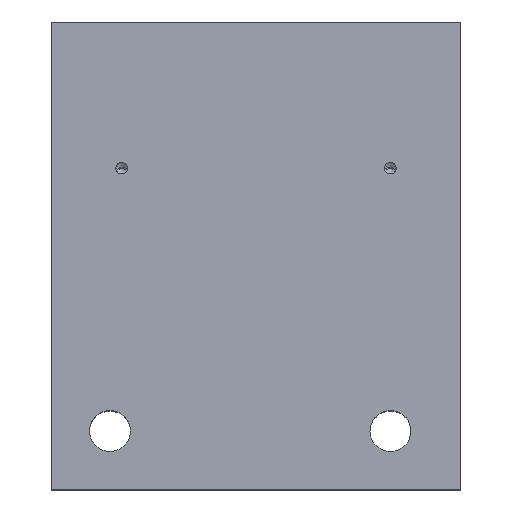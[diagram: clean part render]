
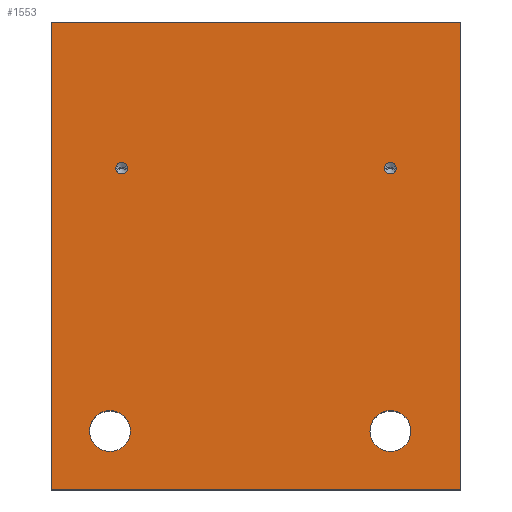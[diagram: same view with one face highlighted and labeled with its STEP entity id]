
A CAD part, top view. The second image highlights one B-rep face of the part: STEP entity #1553.
In plain terms, the highlighted planar face has unit normal (0, 0, 1).
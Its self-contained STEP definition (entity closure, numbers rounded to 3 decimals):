
#19=DIRECTION('',(0.,-1.,0.));
#20=VECTOR('',#19,80.);
#21=CARTESIAN_POINT('',(0.,0.,0.));
#22=LINE('',#21,#20);
#27=DIRECTION('',(-1.,0.,0.));
#28=VECTOR('',#27,70.);
#29=CARTESIAN_POINT('',(70.,0.,0.));
#30=LINE('',#29,#28);
#34=DIRECTION('',(0.,1.,0.));
#35=VECTOR('',#34,80.);
#36=CARTESIAN_POINT('',(70.,-80.,0.));
#37=LINE('',#36,#35);
#41=DIRECTION('',(1.,0.,0.));
#42=VECTOR('',#41,70.);
#43=CARTESIAN_POINT('',(0.,-80.,0.));
#44=LINE('',#43,#42);
#48=CARTESIAN_POINT('',(10.,-70.,0.));
#49=DIRECTION('',(0.,0.,1.));
#50=DIRECTION('',(-1.,0.,0.));
#51=AXIS2_PLACEMENT_3D('',#48,#49,#50);
#56=CARTESIAN_POINT('',(10.,-70.,0.));
#57=DIRECTION('',(0.,0.,1.));
#58=DIRECTION('',(1.,0.,0.));
#59=AXIS2_PLACEMENT_3D('',#56,#57,#58);
#64=CARTESIAN_POINT('',(58.,-70.,0.));
#65=DIRECTION('',(0.,0.,1.));
#66=DIRECTION('',(-1.,0.,0.));
#67=AXIS2_PLACEMENT_3D('',#64,#65,#66);
#72=CARTESIAN_POINT('',(58.,-70.,0.));
#73=DIRECTION('',(0.,0.,1.));
#74=DIRECTION('',(1.,0.,0.));
#75=AXIS2_PLACEMENT_3D('',#72,#73,#74);
#80=CARTESIAN_POINT('',(12.,-25.,0.));
#81=DIRECTION('',(0.,0.,1.));
#82=DIRECTION('',(-1.,0.,0.));
#83=AXIS2_PLACEMENT_3D('',#80,#81,#82);
#88=CARTESIAN_POINT('',(12.,-25.,0.));
#89=DIRECTION('',(0.,0.,1.));
#90=DIRECTION('',(1.,0.,0.));
#91=AXIS2_PLACEMENT_3D('',#88,#89,#90);
#96=CARTESIAN_POINT('',(58.,-25.,0.));
#97=DIRECTION('',(0.,0.,1.));
#98=DIRECTION('',(-1.,0.,0.));
#99=AXIS2_PLACEMENT_3D('',#96,#97,#98);
#104=CARTESIAN_POINT('',(58.,-25.,0.));
#105=DIRECTION('',(0.,0.,1.));
#106=DIRECTION('',(1.,0.,0.));
#107=AXIS2_PLACEMENT_3D('',#104,#105,#106);
#1342=CARTESIAN_POINT('',(0.,0.,0.));
#1343=CARTESIAN_POINT('',(0.,-80.,0.));
#1344=VERTEX_POINT('',#1342);
#1345=VERTEX_POINT('',#1343);
#1346=CARTESIAN_POINT('',(70.,-80.,0.));
#1347=VERTEX_POINT('',#1346);
#1348=CARTESIAN_POINT('',(70.,0.,0.));
#1349=VERTEX_POINT('',#1348);
#1359=CARTESIAN_POINT('',(6.5,-70.,0.));
#1361=VERTEX_POINT('',#1359);
#1363=CARTESIAN_POINT('',(13.5,-70.,0.));
#1365=VERTEX_POINT('',#1363);
#1372=CARTESIAN_POINT('',(11.,-25.,0.));
#1373=VERTEX_POINT('',#1372);
#1374=CARTESIAN_POINT('',(13.,-25.,0.));
#1375=VERTEX_POINT('',#1374);
#1422=CARTESIAN_POINT('',(57.,-25.,0.));
#1423=VERTEX_POINT('',#1422);
#1424=CARTESIAN_POINT('',(59.,-25.,0.));
#1425=VERTEX_POINT('',#1424);
#1427=CARTESIAN_POINT('',(54.5,-70.,0.));
#1429=VERTEX_POINT('',#1427);
#1431=CARTESIAN_POINT('',(61.5,-70.,0.));
#1433=VERTEX_POINT('',#1431);
#1514=CARTESIAN_POINT('',(0.,0.,0.));
#1515=DIRECTION('',(0.,0.,1.));
#1516=DIRECTION('',(1.,0.,0.));
#1517=AXIS2_PLACEMENT_3D('',#1514,#1515,#1516);
#1518=PLANE('',#1517);
#1520=ORIENTED_EDGE('',*,*,#1519,.F.);
#1522=ORIENTED_EDGE('',*,*,#1521,.F.);
#1524=ORIENTED_EDGE('',*,*,#1523,.F.);
#1526=ORIENTED_EDGE('',*,*,#1525,.F.);
#1527=EDGE_LOOP('',(#1520,#1522,#1524,#1526));
#1528=FACE_OUTER_BOUND('',#1527,.F.);
#1530=ORIENTED_EDGE('',*,*,#1529,.T.);
#1532=ORIENTED_EDGE('',*,*,#1531,.T.);
#1533=EDGE_LOOP('',(#1530,#1532));
#1534=FACE_BOUND('',#1533,.F.);
#1536=ORIENTED_EDGE('',*,*,#1535,.T.);
#1538=ORIENTED_EDGE('',*,*,#1537,.T.);
#1539=EDGE_LOOP('',(#1536,#1538));
#1540=FACE_BOUND('',#1539,.F.);
#1542=ORIENTED_EDGE('',*,*,#1541,.T.);
#1544=ORIENTED_EDGE('',*,*,#1543,.T.);
#1545=EDGE_LOOP('',(#1542,#1544));
#1546=FACE_BOUND('',#1545,.F.);
#1548=ORIENTED_EDGE('',*,*,#1547,.T.);
#1550=ORIENTED_EDGE('',*,*,#1549,.T.);
#1551=EDGE_LOOP('',(#1548,#1550));
#1552=FACE_BOUND('',#1551,.F.);
#52=CIRCLE('',#51,3.5);
#60=CIRCLE('',#59,3.5);
#68=CIRCLE('',#67,3.5);
#76=CIRCLE('',#75,3.5);
#84=CIRCLE('',#83,1.);
#92=CIRCLE('',#91,1.);
#100=CIRCLE('',#99,1.);
#108=CIRCLE('',#107,1.);
#1519=EDGE_CURVE('',#1344,#1345,#22,.T.);
#1521=EDGE_CURVE('',#1349,#1344,#30,.T.);
#1523=EDGE_CURVE('',#1347,#1349,#37,.T.);
#1525=EDGE_CURVE('',#1345,#1347,#44,.T.);
#1529=EDGE_CURVE('',#1361,#1365,#52,.T.);
#1531=EDGE_CURVE('',#1365,#1361,#60,.T.);
#1535=EDGE_CURVE('',#1429,#1433,#68,.T.);
#1537=EDGE_CURVE('',#1433,#1429,#76,.T.);
#1541=EDGE_CURVE('',#1373,#1375,#84,.T.);
#1543=EDGE_CURVE('',#1375,#1373,#92,.T.);
#1547=EDGE_CURVE('',#1423,#1425,#100,.T.);
#1549=EDGE_CURVE('',#1425,#1423,#108,.T.);
#1553=ADVANCED_FACE('',(#1528,#1534,#1540,#1546,#1552),#1518,.T.);
